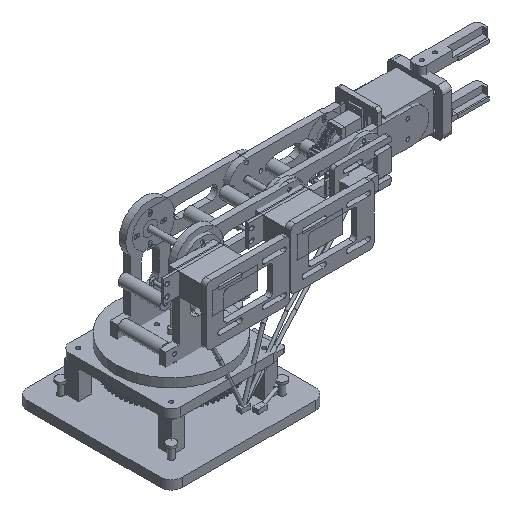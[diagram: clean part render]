
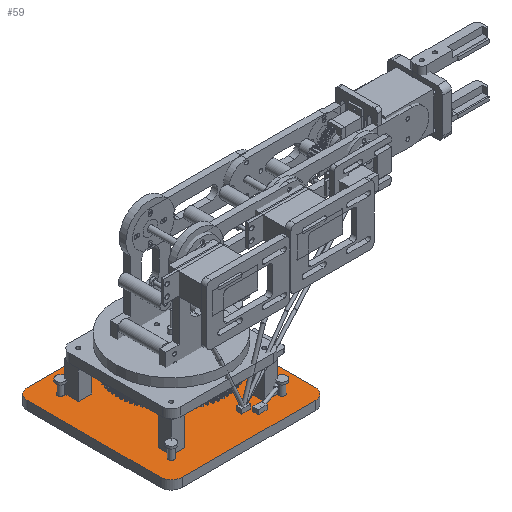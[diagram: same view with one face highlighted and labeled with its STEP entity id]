
A CAD part, isometric view. The second image highlights one B-rep face of the part: STEP entity #59.
In plain terms, the highlighted planar face has unit normal (0, 0, 1).
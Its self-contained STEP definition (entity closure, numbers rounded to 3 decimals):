
#21 = EDGE_CURVE('',#22,#24,#26,.T.);
#22 = VERTEX_POINT('',#23);
#23 = CARTESIAN_POINT('',(-70.,-60.,8.));
#24 = VERTEX_POINT('',#25);
#25 = CARTESIAN_POINT('',(-60.,-70.,8.));
#26 = CIRCLE('',#27,10.);
#27 = AXIS2_PLACEMENT_3D('',#28,#29,#30);
#28 = CARTESIAN_POINT('',(-60.,-60.,8.));
#29 = DIRECTION('',(0.,0.,1.));
#30 = DIRECTION('',(1.,0.,0.));
#59 = ADVANCED_FACE('',(#60,#120,#131,#165,#176,#187,#221,#255,#266,#300
    ),#311,.T.);
#60 = FACE_BOUND('',#61,.T.);
#61 = EDGE_LOOP('',(#62,#63,#71,#80,#88,#97,#105,#114));
#62 = ORIENTED_EDGE('',*,*,#21,.T.);
#63 = ORIENTED_EDGE('',*,*,#64,.T.);
#64 = EDGE_CURVE('',#24,#65,#67,.T.);
#65 = VERTEX_POINT('',#66);
#66 = CARTESIAN_POINT('',(60.,-70.,8.));
#67 = LINE('',#68,#69);
#68 = CARTESIAN_POINT('',(-60.,-70.,8.));
#69 = VECTOR('',#70,1.);
#70 = DIRECTION('',(1.,0.,0.));
#71 = ORIENTED_EDGE('',*,*,#72,.T.);
#72 = EDGE_CURVE('',#65,#73,#75,.T.);
#73 = VERTEX_POINT('',#74);
#74 = CARTESIAN_POINT('',(70.,-60.,8.));
#75 = CIRCLE('',#76,10.);
#76 = AXIS2_PLACEMENT_3D('',#77,#78,#79);
#77 = CARTESIAN_POINT('',(60.,-60.,8.));
#78 = DIRECTION('',(0.,0.,1.));
#79 = DIRECTION('',(1.,0.,0.));
#80 = ORIENTED_EDGE('',*,*,#81,.T.);
#81 = EDGE_CURVE('',#73,#82,#84,.T.);
#82 = VERTEX_POINT('',#83);
#83 = CARTESIAN_POINT('',(70.,60.,8.));
#84 = LINE('',#85,#86);
#85 = CARTESIAN_POINT('',(70.,-60.,8.));
#86 = VECTOR('',#87,1.);
#87 = DIRECTION('',(0.,1.,0.));
#88 = ORIENTED_EDGE('',*,*,#89,.T.);
#89 = EDGE_CURVE('',#82,#90,#92,.T.);
#90 = VERTEX_POINT('',#91);
#91 = CARTESIAN_POINT('',(60.,70.,8.));
#92 = CIRCLE('',#93,10.);
#93 = AXIS2_PLACEMENT_3D('',#94,#95,#96);
#94 = CARTESIAN_POINT('',(60.,60.,8.));
#95 = DIRECTION('',(0.,0.,1.));
#96 = DIRECTION('',(1.,0.,0.));
#97 = ORIENTED_EDGE('',*,*,#98,.F.);
#98 = EDGE_CURVE('',#99,#90,#101,.T.);
#99 = VERTEX_POINT('',#100);
#100 = CARTESIAN_POINT('',(-60.,70.,8.));
#101 = LINE('',#102,#103);
#102 = CARTESIAN_POINT('',(-60.,70.,8.));
#103 = VECTOR('',#104,1.);
#104 = DIRECTION('',(1.,0.,0.));
#105 = ORIENTED_EDGE('',*,*,#106,.T.);
#106 = EDGE_CURVE('',#99,#107,#109,.T.);
#107 = VERTEX_POINT('',#108);
#108 = CARTESIAN_POINT('',(-70.,60.,8.));
#109 = CIRCLE('',#110,10.);
#110 = AXIS2_PLACEMENT_3D('',#111,#112,#113);
#111 = CARTESIAN_POINT('',(-60.,60.,8.));
#112 = DIRECTION('',(0.,0.,1.));
#113 = DIRECTION('',(1.,0.,0.));
#114 = ORIENTED_EDGE('',*,*,#115,.F.);
#115 = EDGE_CURVE('',#22,#107,#116,.T.);
#116 = LINE('',#117,#118);
#117 = CARTESIAN_POINT('',(-70.,-60.,8.));
#118 = VECTOR('',#119,1.);
#119 = DIRECTION('',(0.,1.,0.));
#120 = FACE_BOUND('',#121,.T.);
#121 = EDGE_LOOP('',(#122));
#122 = ORIENTED_EDGE('',*,*,#123,.F.);
#123 = EDGE_CURVE('',#124,#124,#126,.T.);
#124 = VERTEX_POINT('',#125);
#125 = CARTESIAN_POINT('',(-47.35,-50.,8.));
#126 = CIRCLE('',#127,2.65);
#127 = AXIS2_PLACEMENT_3D('',#128,#129,#130);
#128 = CARTESIAN_POINT('',(-50.,-50.,8.));
#129 = DIRECTION('',(0.,0.,1.));
#130 = DIRECTION('',(1.,0.,0.));
#131 = FACE_BOUND('',#132,.T.);
#132 = EDGE_LOOP('',(#133,#143,#151,#159));
#133 = ORIENTED_EDGE('',*,*,#134,.F.);
#134 = EDGE_CURVE('',#135,#137,#139,.T.);
#135 = VERTEX_POINT('',#136);
#136 = CARTESIAN_POINT('',(-48.,-48.,8.));
#137 = VERTEX_POINT('',#138);
#138 = CARTESIAN_POINT('',(-36.,-48.,8.));
#139 = LINE('',#140,#141);
#140 = CARTESIAN_POINT('',(-48.,-48.,8.));
#141 = VECTOR('',#142,1.);
#142 = DIRECTION('',(1.,0.,0.));
#143 = ORIENTED_EDGE('',*,*,#144,.T.);
#144 = EDGE_CURVE('',#135,#145,#147,.T.);
#145 = VERTEX_POINT('',#146);
#146 = CARTESIAN_POINT('',(-48.,-36.,8.));
#147 = LINE('',#148,#149);
#148 = CARTESIAN_POINT('',(-48.,-48.,8.));
#149 = VECTOR('',#150,1.);
#150 = DIRECTION('',(0.,1.,0.));
#151 = ORIENTED_EDGE('',*,*,#152,.T.);
#152 = EDGE_CURVE('',#145,#153,#155,.T.);
#153 = VERTEX_POINT('',#154);
#154 = CARTESIAN_POINT('',(-36.,-36.,8.));
#155 = LINE('',#156,#157);
#156 = CARTESIAN_POINT('',(-48.,-36.,8.));
#157 = VECTOR('',#158,1.);
#158 = DIRECTION('',(1.,0.,0.));
#159 = ORIENTED_EDGE('',*,*,#160,.F.);
#160 = EDGE_CURVE('',#137,#153,#161,.T.);
#161 = LINE('',#162,#163);
#162 = CARTESIAN_POINT('',(-36.,-48.,8.));
#163 = VECTOR('',#164,1.);
#164 = DIRECTION('',(0.,1.,0.));
#165 = FACE_BOUND('',#166,.T.);
#166 = EDGE_LOOP('',(#167));
#167 = ORIENTED_EDGE('',*,*,#168,.F.);
#168 = EDGE_CURVE('',#169,#169,#171,.T.);
#169 = VERTEX_POINT('',#170);
#170 = CARTESIAN_POINT('',(17.,0.,8.));
#171 = CIRCLE('',#172,17.);
#172 = AXIS2_PLACEMENT_3D('',#173,#174,#175);
#173 = CARTESIAN_POINT('',(0.,0.,8.));
#174 = DIRECTION('',(0.,0.,1.));
#175 = DIRECTION('',(1.,0.,0.));
#176 = FACE_BOUND('',#177,.T.);
#177 = EDGE_LOOP('',(#178));
#178 = ORIENTED_EDGE('',*,*,#179,.F.);
#179 = EDGE_CURVE('',#180,#180,#182,.T.);
#180 = VERTEX_POINT('',#181);
#181 = CARTESIAN_POINT('',(52.65,-50.,8.));
#182 = CIRCLE('',#183,2.65);
#183 = AXIS2_PLACEMENT_3D('',#184,#185,#186);
#184 = CARTESIAN_POINT('',(50.,-50.,8.));
#185 = DIRECTION('',(0.,0.,1.));
#186 = DIRECTION('',(1.,0.,0.));
#187 = FACE_BOUND('',#188,.T.);
#188 = EDGE_LOOP('',(#189,#199,#207,#215));
#189 = ORIENTED_EDGE('',*,*,#190,.F.);
#190 = EDGE_CURVE('',#191,#193,#195,.T.);
#191 = VERTEX_POINT('',#192);
#192 = CARTESIAN_POINT('',(36.,-48.,8.));
#193 = VERTEX_POINT('',#194);
#194 = CARTESIAN_POINT('',(48.,-48.,8.));
#195 = LINE('',#196,#197);
#196 = CARTESIAN_POINT('',(36.,-48.,8.));
#197 = VECTOR('',#198,1.);
#198 = DIRECTION('',(1.,0.,0.));
#199 = ORIENTED_EDGE('',*,*,#200,.T.);
#200 = EDGE_CURVE('',#191,#201,#203,.T.);
#201 = VERTEX_POINT('',#202);
#202 = CARTESIAN_POINT('',(36.,-36.,8.));
#203 = LINE('',#204,#205);
#204 = CARTESIAN_POINT('',(36.,-48.,8.));
#205 = VECTOR('',#206,1.);
#206 = DIRECTION('',(0.,1.,0.));
#207 = ORIENTED_EDGE('',*,*,#208,.T.);
#208 = EDGE_CURVE('',#201,#209,#211,.T.);
#209 = VERTEX_POINT('',#210);
#210 = CARTESIAN_POINT('',(48.,-36.,8.));
#211 = LINE('',#212,#213);
#212 = CARTESIAN_POINT('',(36.,-36.,8.));
#213 = VECTOR('',#214,1.);
#214 = DIRECTION('',(1.,0.,0.));
#215 = ORIENTED_EDGE('',*,*,#216,.F.);
#216 = EDGE_CURVE('',#193,#209,#217,.T.);
#217 = LINE('',#218,#219);
#218 = CARTESIAN_POINT('',(48.,-48.,8.));
#219 = VECTOR('',#220,1.);
#220 = DIRECTION('',(0.,1.,0.));
#221 = FACE_BOUND('',#222,.T.);
#222 = EDGE_LOOP('',(#223,#233,#241,#249));
#223 = ORIENTED_EDGE('',*,*,#224,.F.);
#224 = EDGE_CURVE('',#225,#227,#229,.T.);
#225 = VERTEX_POINT('',#226);
#226 = CARTESIAN_POINT('',(-48.,36.,8.));
#227 = VERTEX_POINT('',#228);
#228 = CARTESIAN_POINT('',(-36.,36.,8.));
#229 = LINE('',#230,#231);
#230 = CARTESIAN_POINT('',(-48.,36.,8.));
#231 = VECTOR('',#232,1.);
#232 = DIRECTION('',(1.,0.,0.));
#233 = ORIENTED_EDGE('',*,*,#234,.T.);
#234 = EDGE_CURVE('',#225,#235,#237,.T.);
#235 = VERTEX_POINT('',#236);
#236 = CARTESIAN_POINT('',(-48.,48.,8.));
#237 = LINE('',#238,#239);
#238 = CARTESIAN_POINT('',(-48.,36.,8.));
#239 = VECTOR('',#240,1.);
#240 = DIRECTION('',(0.,1.,0.));
#241 = ORIENTED_EDGE('',*,*,#242,.T.);
#242 = EDGE_CURVE('',#235,#243,#245,.T.);
#243 = VERTEX_POINT('',#244);
#244 = CARTESIAN_POINT('',(-36.,48.,8.));
#245 = LINE('',#246,#247);
#246 = CARTESIAN_POINT('',(-48.,48.,8.));
#247 = VECTOR('',#248,1.);
#248 = DIRECTION('',(1.,0.,0.));
#249 = ORIENTED_EDGE('',*,*,#250,.F.);
#250 = EDGE_CURVE('',#227,#243,#251,.T.);
#251 = LINE('',#252,#253);
#252 = CARTESIAN_POINT('',(-36.,36.,8.));
#253 = VECTOR('',#254,1.);
#254 = DIRECTION('',(0.,1.,0.));
#255 = FACE_BOUND('',#256,.T.);
#256 = EDGE_LOOP('',(#257));
#257 = ORIENTED_EDGE('',*,*,#258,.F.);
#258 = EDGE_CURVE('',#259,#259,#261,.T.);
#259 = VERTEX_POINT('',#260);
#260 = CARTESIAN_POINT('',(-47.35,50.,8.));
#261 = CIRCLE('',#262,2.65);
#262 = AXIS2_PLACEMENT_3D('',#263,#264,#265);
#263 = CARTESIAN_POINT('',(-50.,50.,8.));
#264 = DIRECTION('',(0.,0.,1.));
#265 = DIRECTION('',(1.,0.,0.));
#266 = FACE_BOUND('',#267,.T.);
#267 = EDGE_LOOP('',(#268,#278,#286,#294));
#268 = ORIENTED_EDGE('',*,*,#269,.F.);
#269 = EDGE_CURVE('',#270,#272,#274,.T.);
#270 = VERTEX_POINT('',#271);
#271 = CARTESIAN_POINT('',(36.,36.,8.));
#272 = VERTEX_POINT('',#273);
#273 = CARTESIAN_POINT('',(48.,36.,8.));
#274 = LINE('',#275,#276);
#275 = CARTESIAN_POINT('',(36.,36.,8.));
#276 = VECTOR('',#277,1.);
#277 = DIRECTION('',(1.,0.,0.));
#278 = ORIENTED_EDGE('',*,*,#279,.T.);
#279 = EDGE_CURVE('',#270,#280,#282,.T.);
#280 = VERTEX_POINT('',#281);
#281 = CARTESIAN_POINT('',(36.,48.,8.));
#282 = LINE('',#283,#284);
#283 = CARTESIAN_POINT('',(36.,36.,8.));
#284 = VECTOR('',#285,1.);
#285 = DIRECTION('',(0.,1.,0.));
#286 = ORIENTED_EDGE('',*,*,#287,.T.);
#287 = EDGE_CURVE('',#280,#288,#290,.T.);
#288 = VERTEX_POINT('',#289);
#289 = CARTESIAN_POINT('',(48.,48.,8.));
#290 = LINE('',#291,#292);
#291 = CARTESIAN_POINT('',(36.,48.,8.));
#292 = VECTOR('',#293,1.);
#293 = DIRECTION('',(1.,0.,0.));
#294 = ORIENTED_EDGE('',*,*,#295,.F.);
#295 = EDGE_CURVE('',#272,#288,#296,.T.);
#296 = LINE('',#297,#298);
#297 = CARTESIAN_POINT('',(48.,36.,8.));
#298 = VECTOR('',#299,1.);
#299 = DIRECTION('',(0.,1.,0.));
#300 = FACE_BOUND('',#301,.T.);
#301 = EDGE_LOOP('',(#302));
#302 = ORIENTED_EDGE('',*,*,#303,.F.);
#303 = EDGE_CURVE('',#304,#304,#306,.T.);
#304 = VERTEX_POINT('',#305);
#305 = CARTESIAN_POINT('',(52.65,50.,8.));
#306 = CIRCLE('',#307,2.65);
#307 = AXIS2_PLACEMENT_3D('',#308,#309,#310);
#308 = CARTESIAN_POINT('',(50.,50.,8.));
#309 = DIRECTION('',(0.,0.,1.));
#310 = DIRECTION('',(1.,0.,0.));
#311 = PLANE('',#312);
#312 = AXIS2_PLACEMENT_3D('',#313,#314,#315);
#313 = CARTESIAN_POINT('',(0.,0.,8.));
#314 = DIRECTION('',(0.,0.,1.));
#315 = DIRECTION('',(1.,0.,0.));
